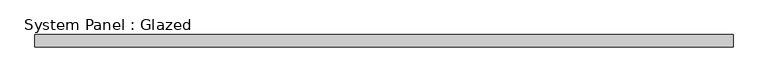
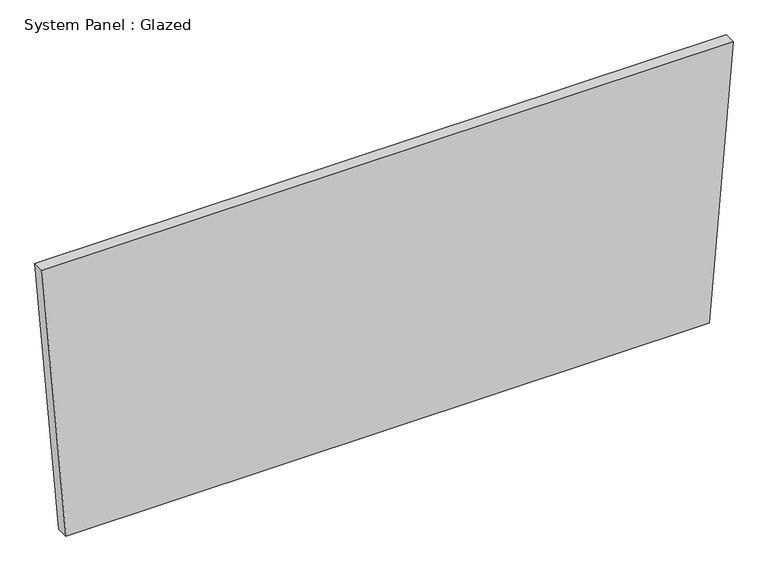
"""IFC4 building model written with IfcOpenShell, lengths in millimetres: plate geometry, System Panel : Glazed."""

from ifc_helpers import new_model, si_unit, frame, origin, place, context, project, spatial, polyline, outline, extrude, source, transform, mapped, element, save


def system_panel_glazed_294e71e8(model_context):
    return source(origin(), model_context, "Body", "SweptSolid", [
        extrude(outline(polyline([(0.0, -675.510861), (0.0, 675.510861), (607.5361787, 725.630234), (607.5361787, -725.630234), (0.0, -675.510861)])), frame((0.0, -44.45, 0.0), z_axis=(0.0, 1.0, 0.0), x_axis=(0.0, 0.0, 1.0)), (0.0, 0.0, 1.0), 25.4),
    ])


if __name__ == "__main__":
    model = new_model("IFC4")
    model_context = context("Model", 3, world=origin())
    ifc_project = project(units=[si_unit("LENGTHUNIT", "METRE", prefix="MILLI")], contexts=[model_context])
    site = spatial("IfcSite", under=ifc_project)
    building = spatial("IfcBuilding", under=site)
    placement = place(None, origin())
    system_panel_glazed_shape = system_panel_glazed_294e71e8(model_context)
    element("IfcPlate", 1, ObjectType="System Panel : Glazed", at=placement, inside=building, context=model_context, shape_type="MappedRepresentation", body=[
        mapped(system_panel_glazed_shape, transform((0.0, 0.0, 0.0), x_axis=(1.0, 0.0, 0.0), y_axis=(0.0, 1.0, 0.0), z_axis=(0.0, 0.0, 1.0))),
    ])
    save(model, "model.ifc")
